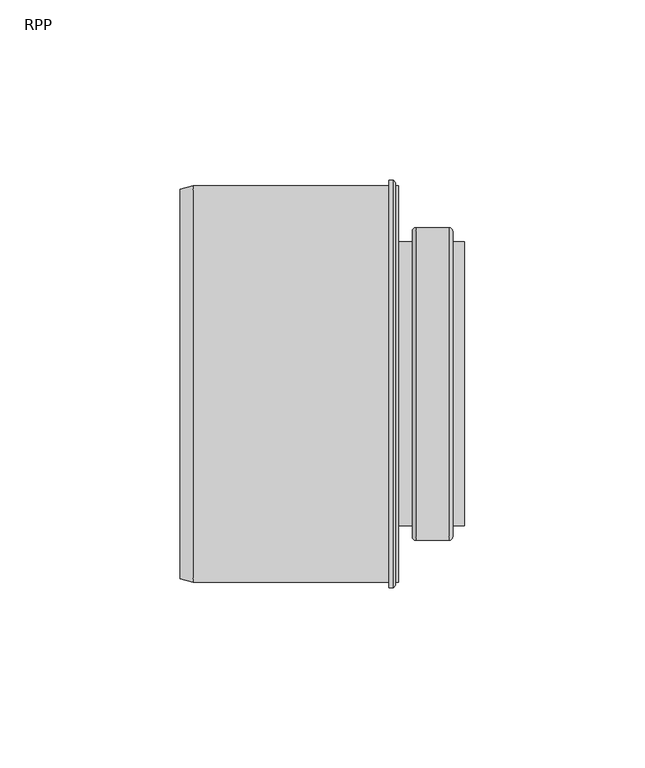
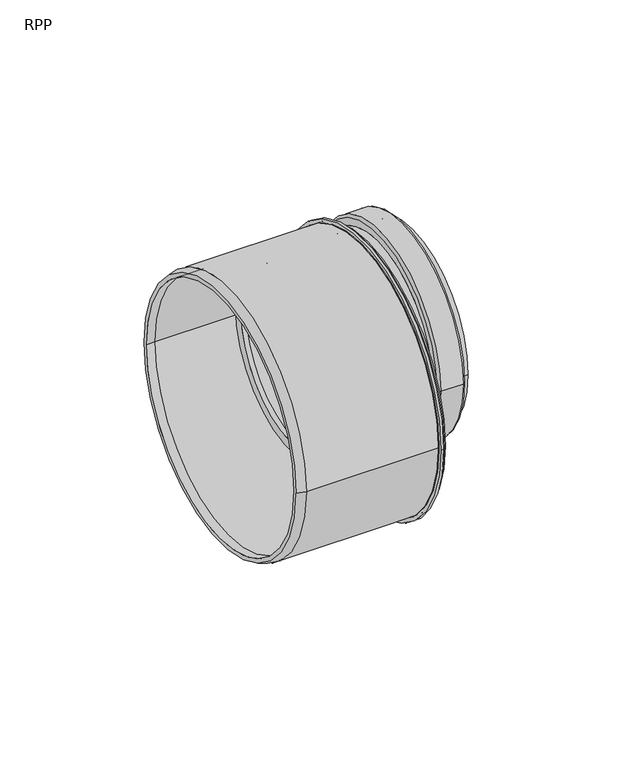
"""IFC4 building model written with IfcOpenShell, lengths in millimetres: pipe fitting geometry, RAUPIANO PLUS Short Reducer : RPP."""

from ifc_helpers import new_model, si_unit, point, frame, frame_2d, origin, origin_2d, place, context, project, spatial, polyline, circle_curve, ellipse_curve, trimmed, segment, composite_curve, outline, extrude, source, transform, mapped, element, save
from ifc_brep_helpers import plane_surface, cylinder_surface, revolved_surface, advanced_brep


def rpp_e88c456e(model_context):
    return source(origin(), model_context, "Body", "SolidModel", [
        extrude(outline(composite_curve([segment(trimmed(circle_curve(origin_2d(), 55.0), [point((-55.0, 0.0))], [point((55.0, 0.0))], False, "CARTESIAN"), True, "CONTINUOUS"), segment(trimmed(circle_curve(origin_2d(), 55.0), [point((55.0, 0.0))], [point((-55.0, 0.0))], False, "CARTESIAN"), True, "CONTINUOUS")], self_intersect=False), holes=[composite_curve([segment(trimmed(circle_curve(frame_2d((0.0, 14.8)), 37.5), [point((-37.5, 14.8))], [point((37.5, 14.8))], True, "CARTESIAN"), True, "CONTINUOUS"), segment(trimmed(circle_curve(frame_2d((0.0, 14.8)), 37.5), [point((37.5, 14.8))], [point((-37.5, 14.8))], True, "CARTESIAN"), True, "CONTINUOUS")], self_intersect=False)]), frame((0.0, 0.0, 0.0), z_axis=(1.0, 0.0, 0.0), x_axis=(0.0, 1.0, 0.0)), (0.0, 0.0, 1.0), 2.7),
        advanced_brep(
        [(0.0, 55.0, 0.0), (0.0, -55.0, 0.0), (1.8, -55.0, 0.0), (1.8, 55.0, 0.0), (1.8, 55.8680651, 0.0), (1.8, -55.8680651, 0.0), (0.0, -56.5429328, 0.0), (0.0, 56.5429328, 0.0), (1.2520203, -56.5429328, 0.0), (1.2520203, 56.5429328, 0.0)],
        [
            (0, 1, circle_curve(frame((0.0, 0.0, 0.0), z_axis=(-1.0, 0.0, 0.0), x_axis=(0.0, -1.0, 0.0)), 55.0)),
            (1, 2),
            (2, 3, circle_curve(frame((1.8, 0.0, 0.0), z_axis=(1.0, 0.0, 0.0), x_axis=(0.0, -1.0, 0.0)), 55.0)),
            (3, 0),
            (1, 0, circle_curve(frame((0.0, 0.0, 0.0), z_axis=(-1.0, 0.0, 0.0), x_axis=(0.0, 1.0, 0.0)), 55.0)),
            (3, 2, circle_curve(frame((1.8, 0.0, 0.0), z_axis=(1.0, 0.0, 0.0), x_axis=(0.0, 1.0, 0.0)), 55.0)),
            (4, 5, circle_curve(frame((1.8, 0.0, 0.0), z_axis=(1.0, 0.0, 0.0), x_axis=(0.0, 1.0, 0.0)), 55.8680651)),
            (5, 4, circle_curve(frame((1.8, 0.0, 0.0), z_axis=(1.0, 0.0, 0.0), x_axis=(0.0, -1.0, 0.0)), 55.8680651)),
            (6, 7, circle_curve(frame((0.0, 0.0, 0.0), z_axis=(-1.0, 0.0, 0.0), x_axis=(0.0, 1.0, 0.0)), 56.5429328)),
            (7, 6, circle_curve(frame((0.0, 0.0, 0.0), z_axis=(-1.0, 0.0, 0.0), x_axis=(0.0, -1.0, 0.0)), 56.5429328)),
            (5, 8),
            (8, 9, circle_curve(frame((1.2520203, 0.0, 0.0), z_axis=(1.0, 0.0, 0.0), x_axis=(0.0, -1.0, 0.0)), 56.5429328)),
            (9, 4),
            (8, 6),
            (7, 9),
            (9, 8, circle_curve(frame((1.2520203, 0.0, 0.0), z_axis=(1.0, 0.0, 0.0), x_axis=(0.0, 1.0, 0.0)), 56.5429328)),
        ],
        [
            revolved_surface(polyline([(1.8, -55.0, 0.0), (0.0, -55.0, 0.0)]), (0.0, 0.0, 0.0), (1.0, 0.0, 0.0)),
            revolved_surface(polyline([(1.8, 55.0, 0.0), (0.0, 55.0, 0.0)]), (0.0, 0.0, 0.0), (1.0, 0.0, 0.0)),
            plane_surface(frame((1.8, 0.0, 0.0), z_axis=(1.0, 0.0, 0.0), x_axis=(0.0, 1.0, 0.0))),
            plane_surface(frame((0.0, 0.0, 0.0), z_axis=(-1.0, 0.0, 0.0), x_axis=(0.0, 1.0, 0.0))),
            revolved_surface(polyline([(1.2520203, -56.5429328, 0.0), (1.8, -55.8680651, 0.0)]), (0.0, 0.0, 0.0), (1.0, 0.0, 0.0)),
            cylinder_surface(frame((0.0, 0.0, 0.0), z_axis=(1.0, 0.0, 0.0), x_axis=(0.0, -1.0, 0.0)), 56.5429328),
            revolved_surface(polyline([(1.2520203, 56.5429328, 0.0), (1.8, 55.8680651, 0.0)]), (0.0, 0.0, 0.0), (1.0, 0.0, 0.0)),
            cylinder_surface(frame((0.0, 0.0, 0.0), z_axis=(1.0, 0.0, 0.0), x_axis=(0.0, 1.0, 0.0)), 56.5429328),
        ],
        [
            (0, [[1, 2, 3, 4]]),
            (1, [[5, -4, 6, -2]]),
            (2, [[7, 8], [-6, -3]]),
            (3, [[9, 10], [-5, -1]]),
            (4, [[-8, 11, 12, 13]]),
            (5, [[-12, 14, -10, 15]]),
            (6, [[-7, -13, 16, -11]]),
            (7, [[-16, -15, -9, -14]]),
        ],
    ),
        advanced_brep(
        [(6.5, 39.4, 14.8), (6.5, -39.4, 14.8), (-29.0, -39.4, 14.8), (-29.0, 39.4, 14.8), (21.0, 39.4, 14.8), (21.0, -39.4, 14.8), (17.7, -39.4, 14.8), (17.7, 39.4, 14.8), (15.7, 37.5, 14.8), (15.7, -37.5, 14.8), (21.0, -37.5, 14.8), (21.0, 37.5, 14.8), (-27.1, 37.5, 14.8), (-27.1, -37.5, 14.8), (8.5, -37.5, 14.8), (8.5, 37.5, 14.8), (15.7, -41.4, 14.8), (15.7, 41.4, 14.8), (7.5, 43.4, 14.8), (7.5, -43.4, 14.8), (6.5, -42.4, 14.8), (6.5, 42.4, 14.8), (16.7, 43.4, 14.8), (16.7, -43.4, 14.8), (17.7, 42.4, 14.8), (17.7, -42.4, 14.8), (8.5, 41.4, 14.8), (8.5, -41.4, 14.8), (-29.0, 35.4, 14.8), (-29.0, -35.4, 14.8), (-27.1, -35.4, 14.8), (-27.1, 35.4, 14.8)],
        [
            (0, 1, circle_curve(frame((6.5, 0.0, 14.8), z_axis=(-1.0, 0.0, 0.0), x_axis=(0.0, -1.0, 0.0)), 39.4)),
            (1, 2),
            (2, 3, circle_curve(frame((-29.0, 0.0, 14.8), z_axis=(1.0, 0.0, 0.0), x_axis=(0.0, -1.0, 0.0)), 39.4)),
            (3, 0),
            (4, 5, circle_curve(frame((21.0, 0.0, 14.8), z_axis=(-1.0, 0.0, 0.0), x_axis=(0.0, -1.0, 0.0)), 39.4)),
            (5, 6),
            (6, 7, circle_curve(frame((17.7, 0.0, 14.8), z_axis=(1.0, 0.0, 0.0), x_axis=(0.0, -1.0, 0.0)), 39.4)),
            (7, 4),
            (8, 9, circle_curve(frame((15.7, 0.0, 14.8), z_axis=(-1.0, 0.0, 0.0), x_axis=(0.0, -1.0, 0.0)), 37.5)),
            (9, 10),
            (10, 11, circle_curve(frame((21.0, 0.0, 14.8), z_axis=(1.0, 0.0, 0.0), x_axis=(0.0, -1.0, 0.0)), 37.5)),
            (11, 8),
            (12, 13, circle_curve(frame((-27.1, 0.0, 14.8), z_axis=(-1.0, 0.0, 0.0), x_axis=(0.0, -1.0, 0.0)), 37.5)),
            (13, 14),
            (14, 15, circle_curve(frame((8.5, 0.0, 14.8), z_axis=(1.0, 0.0, 0.0), x_axis=(0.0, -1.0, 0.0)), 37.5)),
            (15, 12),
            (1, 0, circle_curve(frame((6.5, 0.0, 14.8), z_axis=(-1.0, 0.0, 0.0), x_axis=(0.0, 1.0, 0.0)), 39.4)),
            (3, 2, circle_curve(frame((-29.0, 0.0, 14.8), z_axis=(1.0, 0.0, 0.0), x_axis=(0.0, 1.0, 0.0)), 39.4)),
            (5, 4, circle_curve(frame((21.0, 0.0, 14.8), z_axis=(-1.0, 0.0, 0.0), x_axis=(0.0, 1.0, 0.0)), 39.4)),
            (7, 6, circle_curve(frame((17.7, 0.0, 14.8), z_axis=(1.0, 0.0, 0.0), x_axis=(0.0, 1.0, 0.0)), 39.4)),
            (10, 11, circle_curve(frame((21.0, 0.0, 14.8), z_axis=(-1.0, 0.0, 0.0), x_axis=(0.0, 1.0, 0.0)), 37.5)),
            (9, 8, circle_curve(frame((15.7, 0.0, 14.8), z_axis=(-1.0, 0.0, 0.0), x_axis=(0.0, 1.0, 0.0)), 37.5)),
            (13, 12, circle_curve(frame((-27.1, 0.0, 14.8), z_axis=(-1.0, 0.0, 0.0), x_axis=(0.0, 1.0, 0.0)), 37.5)),
            (15, 14, circle_curve(frame((8.5, 0.0, 14.8), z_axis=(1.0, 0.0, 0.0), x_axis=(0.0, 1.0, 0.0)), 37.5)),
            (16, 17, circle_curve(frame((15.7, 0.0, 14.8), z_axis=(-1.0, 0.0, 0.0), x_axis=(0.0, 1.0, 0.0)), 41.4)),
            (17, 16, circle_curve(frame((15.7, 0.0, 14.8), z_axis=(-1.0, 0.0, 0.0), x_axis=(0.0, -1.0, 0.0)), 41.4)),
            (18, 19, circle_curve(frame((7.5, 0.0, 14.8), z_axis=(-1.0, 0.0, 0.0), x_axis=(0.0, -1.0, 0.0)), 43.4)),
            (19, 20, circle_curve(frame((7.5, -42.4, 14.8), z_axis=(0.0, 0.0, -1.0), x_axis=(1.0, 0.0, 0.0)), 1.0)),
            (20, 21, circle_curve(frame((6.5, 0.0, 14.8), z_axis=(1.0, 0.0, 0.0), x_axis=(0.0, -1.0, 0.0)), 42.4)),
            (21, 18, circle_curve(frame((7.5, 42.4, 14.8), z_axis=(0.0, 0.0, -1.0), x_axis=(1.0, 0.0, 0.0)), 1.0)),
            (22, 23, circle_curve(frame((16.7, 0.0, 14.8), z_axis=(-1.0, 0.0, 0.0), x_axis=(0.0, -1.0, 0.0)), 43.4)),
            (23, 19),
            (18, 22),
            (24, 25, circle_curve(frame((17.7, 0.0, 14.8), z_axis=(-1.0, 0.0, 0.0), x_axis=(0.0, -1.0, 0.0)), 42.4)),
            (25, 23, circle_curve(frame((16.7, -42.4, 14.8), z_axis=(0.0, 0.0, -1.0), x_axis=(1.0, 0.0, 0.0)), 1.0)),
            (22, 24, circle_curve(frame((16.7, 42.4, 14.8), z_axis=(0.0, 0.0, -1.0), x_axis=(1.0, 0.0, 0.0)), 1.0)),
            (20, 21, circle_curve(frame((6.5, 0.0, 14.8), z_axis=(-1.0, 0.0, 0.0), x_axis=(0.0, 1.0, 0.0)), 42.4)),
            (19, 18, circle_curve(frame((7.5, 0.0, 14.8), z_axis=(-1.0, 0.0, 0.0), x_axis=(0.0, 1.0, 0.0)), 43.4)),
            (23, 22, circle_curve(frame((16.7, 0.0, 14.8), z_axis=(-1.0, 0.0, 0.0), x_axis=(0.0, 1.0, 0.0)), 43.4)),
            (25, 24, circle_curve(frame((17.7, 0.0, 14.8), z_axis=(-1.0, 0.0, 0.0), x_axis=(0.0, 1.0, 0.0)), 42.4)),
            (26, 27, circle_curve(frame((8.5, 0.0, 14.8), z_axis=(-1.0, 0.0, 0.0), x_axis=(0.0, -1.0, 0.0)), 41.4)),
            (27, 16),
            (17, 26),
            (28, 29, circle_curve(frame((-29.0, 0.0, 14.8), z_axis=(-1.0, 0.0, 0.0), x_axis=(0.0, -1.0, 0.0)), 35.4)),
            (29, 30),
            (30, 31, circle_curve(frame((-27.1, 0.0, 14.8), z_axis=(1.0, 0.0, 0.0), x_axis=(0.0, -1.0, 0.0)), 35.4)),
            (31, 28),
            (27, 26, circle_curve(frame((8.5, 0.0, 14.8), z_axis=(-1.0, 0.0, 0.0), x_axis=(0.0, 1.0, 0.0)), 41.4)),
            (30, 31, circle_curve(frame((-27.1, 0.0, 14.8), z_axis=(-1.0, 0.0, 0.0), x_axis=(0.0, 1.0, 0.0)), 35.4)),
            (29, 28, circle_curve(frame((-29.0, 0.0, 14.8), z_axis=(-1.0, 0.0, 0.0), x_axis=(0.0, 1.0, 0.0)), 35.4)),
        ],
        [
            cylinder_surface(frame((0.0, 0.0, 14.8), z_axis=(1.0, 0.0, 0.0), x_axis=(0.0, -1.0, 0.0)), 39.4),
            revolved_surface(polyline([(21.0, -37.5, 14.8), (15.7, -37.5, 14.8)]), (0.0, 0.0, 14.8), (1.0, 0.0, 0.0)),
            revolved_surface(polyline([(8.5, -37.5, 14.8), (-27.1, -37.5, 14.8)]), (0.0, 0.0, 14.8), (1.0, 0.0, 0.0)),
            cylinder_surface(frame((0.0, 0.0, 14.8), z_axis=(1.0, 0.0, 0.0), x_axis=(0.0, 1.0, 0.0)), 39.4),
            plane_surface(frame((21.0, 0.0, 14.8), z_axis=(1.0, 0.0, 0.0), x_axis=(0.0, 1.0, 0.0))),
            revolved_surface(polyline([(21.0, 37.5, 14.8), (15.7, 37.5, 14.8)]), (0.0, 0.0, 14.8), (1.0, 0.0, 0.0)),
            revolved_surface(polyline([(8.5, 37.5, 14.8), (-27.1, 37.5, 14.8)]), (0.0, 0.0, 14.8), (1.0, 0.0, 0.0)),
            plane_surface(frame((15.7, 0.0, 14.8), z_axis=(-1.0, 0.0, 0.0), x_axis=(0.0, 1.0, 0.0))),
            revolved_surface(trimmed(ellipse_curve(frame((7.5, -42.4, 14.8), z_axis=(0.0, 0.0, 1.0), x_axis=(1.0, 0.0, 0.0)), 1.0, 1.0), [point((6.5, -42.4, 14.8))], [point((7.5, -43.4, 14.8))], True, "CARTESIAN"), (0.0, 0.0, 14.8), (1.0, 0.0, 0.0)),
            cylinder_surface(frame((0.0, 0.0, 14.8), z_axis=(1.0, 0.0, 0.0), x_axis=(0.0, -1.0, 0.0)), 43.4),
            revolved_surface(trimmed(ellipse_curve(frame((16.7, -42.4, 14.8), z_axis=(0.0, 0.0, 1.0), x_axis=(1.0, 0.0, 0.0)), 1.0, 1.0), [point((16.7, -43.4, 14.8))], [point((17.7, -42.4, 14.8))], True, "CARTESIAN"), (0.0, 0.0, 14.8), (1.0, 0.0, 0.0)),
            plane_surface(frame((6.5, 0.0, 14.8), z_axis=(-1.0, 0.0, 0.0), x_axis=(0.0, 1.0, 0.0))),
            revolved_surface(trimmed(ellipse_curve(frame((7.5, 42.4, 14.8), z_axis=(0.0, 0.0, -1.0), x_axis=(1.0, 0.0, 0.0)), 1.0, 1.0), [point((6.5, 42.4, 14.8))], [point((7.5, 43.4, 14.8))], True, "CARTESIAN"), (0.0, 0.0, 14.8), (1.0, 0.0, 0.0)),
            cylinder_surface(frame((0.0, 0.0, 14.8), z_axis=(1.0, 0.0, 0.0), x_axis=(0.0, 1.0, 0.0)), 43.4),
            revolved_surface(trimmed(ellipse_curve(frame((16.7, 42.4, 14.8), z_axis=(0.0, 0.0, -1.0), x_axis=(1.0, 0.0, 0.0)), 1.0, 1.0), [point((16.7, 43.4, 14.8))], [point((17.7, 42.4, 14.8))], True, "CARTESIAN"), (0.0, 0.0, 14.8), (1.0, 0.0, 0.0)),
            plane_surface(frame((17.7, 0.0, 14.8), z_axis=(1.0, 0.0, 0.0), x_axis=(0.0, 1.0, 0.0))),
            revolved_surface(polyline([(15.7, -41.4, 14.8), (8.5, -41.4, 14.8)]), (0.0, 0.0, 14.8), (1.0, 0.0, 0.0)),
            revolved_surface(polyline([(-27.1, -35.4, 14.8), (-29.0, -35.4, 14.8)]), (0.0, 0.0, 14.8), (1.0, 0.0, 0.0)),
            revolved_surface(polyline([(15.7, 41.4, 14.8), (8.5, 41.4, 14.8)]), (0.0, 0.0, 14.8), (1.0, 0.0, 0.0)),
            plane_surface(frame((8.5, 0.0, 14.8), z_axis=(1.0, 0.0, 0.0), x_axis=(0.0, 1.0, 0.0))),
            plane_surface(frame((-27.1, 0.0, 14.8), z_axis=(1.0, 0.0, 0.0), x_axis=(0.0, 1.0, 0.0))),
            revolved_surface(polyline([(-27.1, 35.4, 14.8), (-29.0, 35.4, 14.8)]), (0.0, 0.0, 14.8), (1.0, 0.0, 0.0)),
            plane_surface(frame((-29.0, 0.0, 14.8), z_axis=(-1.0, 0.0, 0.0), x_axis=(0.0, 1.0, 0.0))),
        ],
        [
            (0, [[1, 2, 3, 4]]),
            (0, [[5, 6, 7, 8]]),
            (1, [[9, 10, 11, 12]]),
            (2, [[13, 14, 15, 16]]),
            (3, [[17, -4, 18, -2]]),
            (3, [[19, -8, 20, -6]]),
            (4, [[-19, -5], [21, -11]]),
            (5, [[22, -12, -21, -10]]),
            (6, [[23, -16, 24, -14]]),
            (7, [[25, 26], [-22, -9]]),
            (8, [[27, 28, 29, 30]]),
            (9, [[31, 32, -27, 33]]),
            (10, [[34, 35, -31, 36]]),
            (11, [[37, -29], [-17, -1]]),
            (12, [[38, -30, -37, -28]]),
            (13, [[39, -33, -38, -32]]),
            (14, [[40, -36, -39, -35]]),
            (15, [[-40, -34], [-20, -7]]),
            (16, [[41, 42, -26, 43]]),
            (17, [[44, 45, 46, 47]]),
            (18, [[48, -43, -25, -42]]),
            (19, [[-48, -41], [-24, -15]]),
            (20, [[-23, -13], [49, -46]]),
            (21, [[50, -47, -49, -45]]),
            (22, [[-18, -3], [-50, -44]]),
        ],
    ),
        advanced_brep(
        [(-54.4, 52.3, 0.0), (-54.4, -52.3, 0.0), (0.0, -52.3, 0.0), (0.0, 52.3, 0.0), (-58.0, 52.3, 0.0), (-58.0, -52.3, 0.0), (-54.4, 55.0, 0.0), (-54.4, -55.0, 0.0), (-58.0, -54.0353829, 0.0), (-58.0, 54.0353829, 0.0), (0.0, 55.0, 0.0), (0.0, -55.0, 0.0)],
        [
            (0, 1, circle_curve(frame((-54.4, 0.0, 0.0), z_axis=(-1.0, 0.0, 0.0), x_axis=(0.0, -1.0, 0.0)), 52.3)),
            (1, 2),
            (2, 3, circle_curve(frame((0.0, 0.0, 0.0), z_axis=(1.0, 0.0, 0.0), x_axis=(0.0, -1.0, 0.0)), 52.3)),
            (3, 0),
            (4, 5, circle_curve(frame((-58.0, 0.0, 0.0), z_axis=(-1.0, 0.0, 0.0), x_axis=(0.0, -1.0, 0.0)), 52.3)),
            (5, 1),
            (0, 4),
            (6, 7, circle_curve(frame((-54.4, 0.0, 0.0), z_axis=(-1.0, 0.0, 0.0), x_axis=(0.0, -1.0, 0.0)), 55.0)),
            (7, 8),
            (8, 9, circle_curve(frame((-58.0, 0.0, 0.0), z_axis=(1.0, 0.0, 0.0), x_axis=(0.0, -1.0, 0.0)), 54.0353829)),
            (9, 6),
            (10, 11, circle_curve(frame((0.0, 0.0, 0.0), z_axis=(-1.0, 0.0, 0.0), x_axis=(0.0, -1.0, 0.0)), 55.0)),
            (11, 7),
            (6, 10),
            (10, 11, circle_curve(frame((0.0, 0.0, 0.0), z_axis=(1.0, 0.0, 0.0), x_axis=(0.0, 1.0, 0.0)), 55.0)),
            (2, 3, circle_curve(frame((0.0, 0.0, 0.0), z_axis=(-1.0, 0.0, 0.0), x_axis=(0.0, 1.0, 0.0)), 52.3)),
            (1, 0, circle_curve(frame((-54.4, 0.0, 0.0), z_axis=(-1.0, 0.0, 0.0), x_axis=(0.0, 1.0, 0.0)), 52.3)),
            (5, 4, circle_curve(frame((-58.0, 0.0, 0.0), z_axis=(-1.0, 0.0, 0.0), x_axis=(0.0, 1.0, 0.0)), 52.3)),
            (8, 9, circle_curve(frame((-58.0, 0.0, 0.0), z_axis=(-1.0, 0.0, 0.0), x_axis=(0.0, 1.0, 0.0)), 54.0353829)),
            (7, 6, circle_curve(frame((-54.4, 0.0, 0.0), z_axis=(-1.0, 0.0, 0.0), x_axis=(0.0, 1.0, 0.0)), 55.0)),
        ],
        [
            revolved_surface(polyline([(0.0, -52.3, 0.0), (-54.4, -52.3, 0.0)]), (0.0, 0.0, 0.0), (1.0, 0.0, 0.0)),
            revolved_surface(polyline([(-54.4, -52.3, 0.0), (-58.0, -52.3, 0.0)]), (0.0, 0.0, 0.0), (1.0, 0.0, 0.0)),
            revolved_surface(polyline([(-58.0, -54.0353829, 0.0), (-54.4, -55.0, 0.0)]), (0.0, 0.0, 0.0), (1.0, 0.0, 0.0)),
            cylinder_surface(frame((0.0, 0.0, 0.0), z_axis=(1.0, 0.0, 0.0), x_axis=(0.0, -1.0, 0.0)), 55.0),
            plane_surface(frame((0.0, 0.0, 0.0), z_axis=(1.0, 0.0, 0.0), x_axis=(0.0, 1.0, 0.0))),
            revolved_surface(polyline([(0.0, 52.3, 0.0), (-54.4, 52.3, 0.0)]), (0.0, 0.0, 0.0), (1.0, 0.0, 0.0)),
            revolved_surface(polyline([(-54.4, 52.3, 0.0), (-58.0, 52.3, 0.0)]), (0.0, 0.0, 0.0), (1.0, 0.0, 0.0)),
            plane_surface(frame((-58.0, 0.0, 0.0), z_axis=(-1.0, 0.0, 0.0), x_axis=(0.0, 1.0, 0.0))),
            revolved_surface(polyline([(-58.0, 54.0353829, 0.0), (-54.4, 55.0, 0.0)]), (0.0, 0.0, 0.0), (1.0, 0.0, 0.0)),
            cylinder_surface(frame((0.0, 0.0, 0.0), z_axis=(1.0, 0.0, 0.0), x_axis=(0.0, 1.0, 0.0)), 55.0),
        ],
        [
            (0, [[1, 2, 3, 4]]),
            (1, [[5, 6, -1, 7]]),
            (2, [[8, 9, 10, 11]]),
            (3, [[12, 13, -8, 14]]),
            (4, [[15, -12], [16, -3]]),
            (5, [[17, -4, -16, -2]]),
            (6, [[18, -7, -17, -6]]),
            (7, [[19, -10], [-18, -5]]),
            (8, [[20, -11, -19, -9]]),
            (9, [[-15, -14, -20, -13]]),
        ],
    ),
    ])


if __name__ == "__main__":
    model = new_model("IFC4")
    model_context = context("Model", 3, world=origin())
    ifc_project = project(units=[si_unit("LENGTHUNIT", "METRE", prefix="MILLI")], contexts=[model_context])
    site = spatial("IfcSite", under=ifc_project)
    building = spatial("IfcBuilding", under=site)
    placement = place(None, origin())
    rpp_shape = rpp_e88c456e(model_context)
    element("IfcPipeFitting", 1, ObjectType="RAUPIANO PLUS Short Reducer : RPP", at=placement, inside=building, context=model_context, shape_type="MappedRepresentation", body=[
        mapped(rpp_shape, transform((0.0, 0.0, 0.0), x_axis=(1.0, 0.0, 0.0), y_axis=(0.0, 1.0, 0.0), z_axis=(0.0, 0.0, 1.0))),
    ])
    save(model, "model.ifc")
